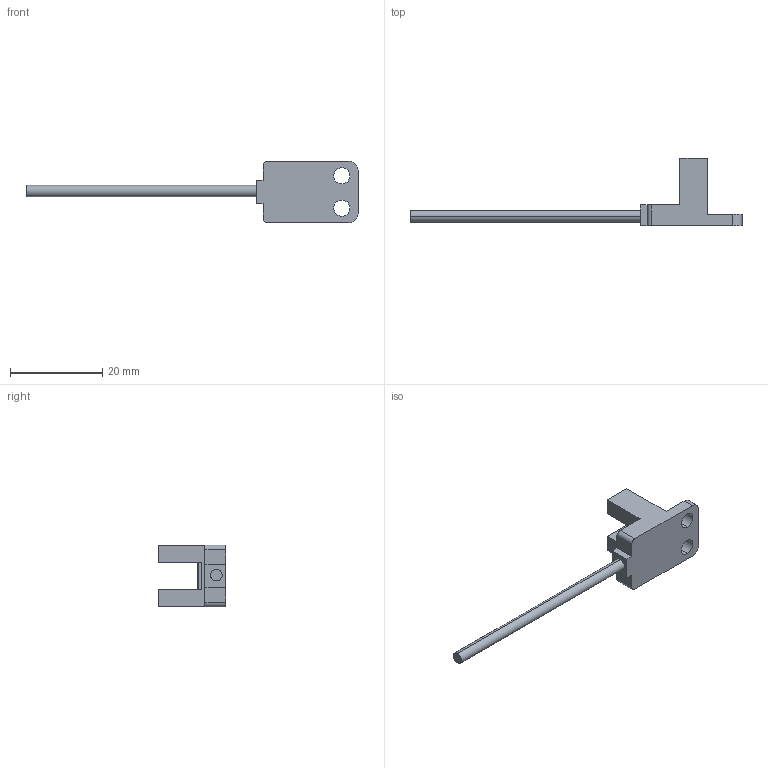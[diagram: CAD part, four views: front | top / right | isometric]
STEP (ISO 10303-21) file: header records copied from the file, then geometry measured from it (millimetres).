
FILE_DESCRIPTION (( 'STEP AP203' ), '1' );
FILE_NAME ('pm-y45.STEP', '2016-06-23T04:10:18', ( '' ), ( '' ), 'SwSTEP 2.0', 'SolidWorks 2014', '' );
FILE_SCHEMA (( 'CONFIG_CONTROL_DESIGN' ));
Length unit declared in the file: millimetre
Products named in the file (1): pm-y45
Bounding box: 72.1 x 14.6 x 13.4 mm (x, y, z)
Volume: 1768.8 mm3; surface area: 1646.5 mm2
Topology: 1 solids, 1 shells, 61 faces, 162 edges, 108 vertices
Faces by surface type: plane 51, cylinder 10
Entity records: 1961 total; most frequent: CARTESIAN_POINT 332, ORIENTED_EDGE 324, DIRECTION 306, EDGE_CURVE 162, LINE 142, VECTOR 142, VERTEX_POINT 108, AXIS2_PLACEMENT_3D 82
